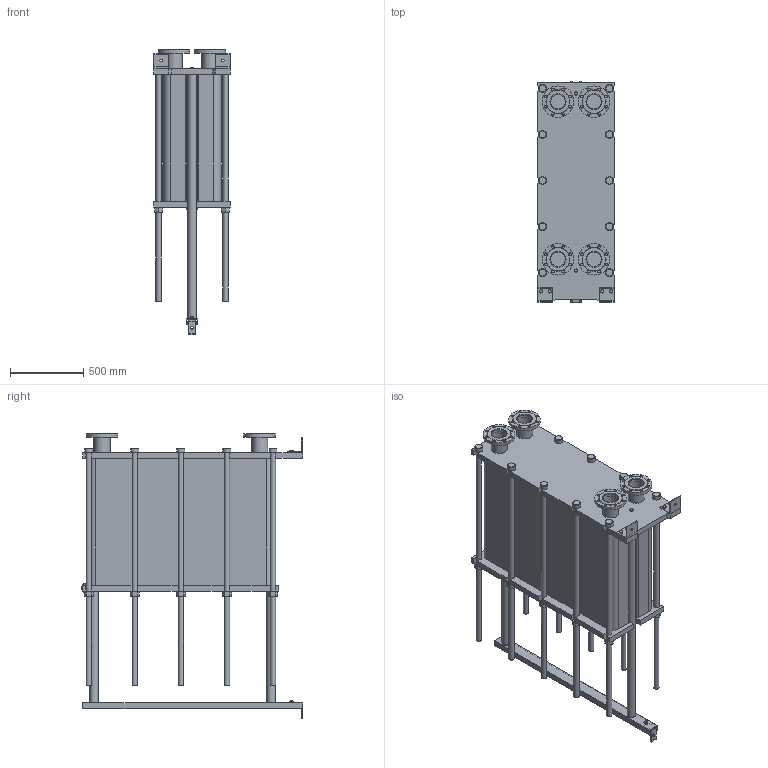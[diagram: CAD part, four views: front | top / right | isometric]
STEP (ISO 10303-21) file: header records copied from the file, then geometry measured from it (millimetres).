
FILE_DESCRIPTION(/* description */ (''),/* implementation_level */ '2;1');
FILE_NAME(/* name */ 'C:\Users\zhuro\Desktop\ENCO\TO\ЭН-04\ЭН-0,5-04-251-1.stp',/* time_stamp */ '2022-06-06T11:06:50+03:00',/* author */ ('zhuro'),/* organization */ (''),/* preprocessor_version */ 'ST-DEVELOPER v18.1',/* originating_system */ 'Autodesk Inventor 2022',/* authorisation */ '');
FILE_SCHEMA (('AUTOMOTIVE_DESIGN { 1 0 10303 214 3 1 1 }'));
Length unit declared in the file: millimetre
Products named in the file (1): ЭН-0,5-04-251-1
Bounding box: 520 x 1510 x 1945.5 mm (x, y, z)
Volume: 512098186.6 mm3; surface area: 11675766.2 mm2
Topology: 45 solids, 45 shells, 668 faces, 1611 edges, 1048 vertices
Faces by surface type: plane 457, cylinder 166, cone 39, torus 6
Full cylindrical faces by diameter (mm): 8 x4, 10 x2, 16 x8, 18 x35, 36 x25, 40 x2, 42 x1, 45 x4, 54 x10, 57 x2, 60 x10, 68 x2, 100 x4, 110 x8, 215 x4
Entity records: 23607 total; most frequent: CARTESIAN_POINT 7348, DIRECTION 3371, ORIENTED_EDGE 3142, EDGE_CURVE 1571, AXIS2_PLACEMENT_3D 1199, VERTEX_POINT 1044, LINE 973, VECTOR 973
